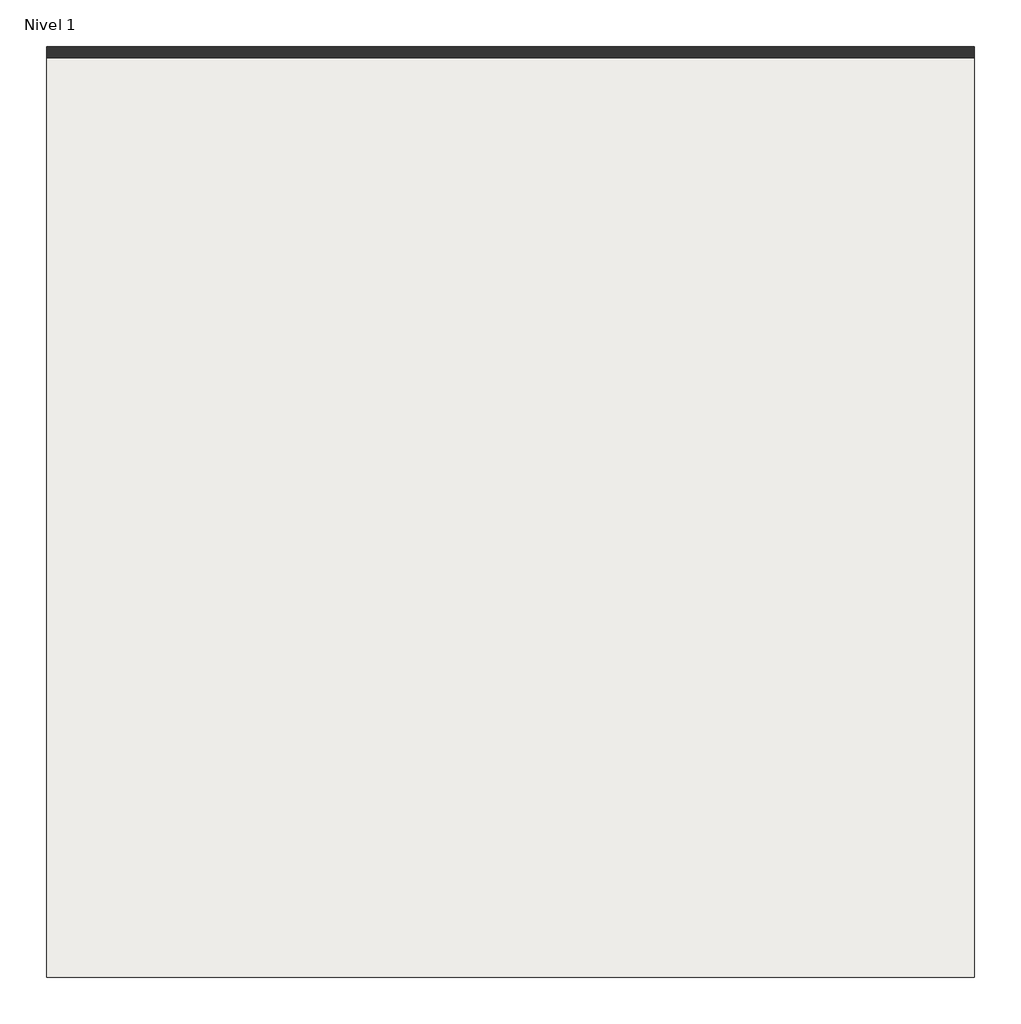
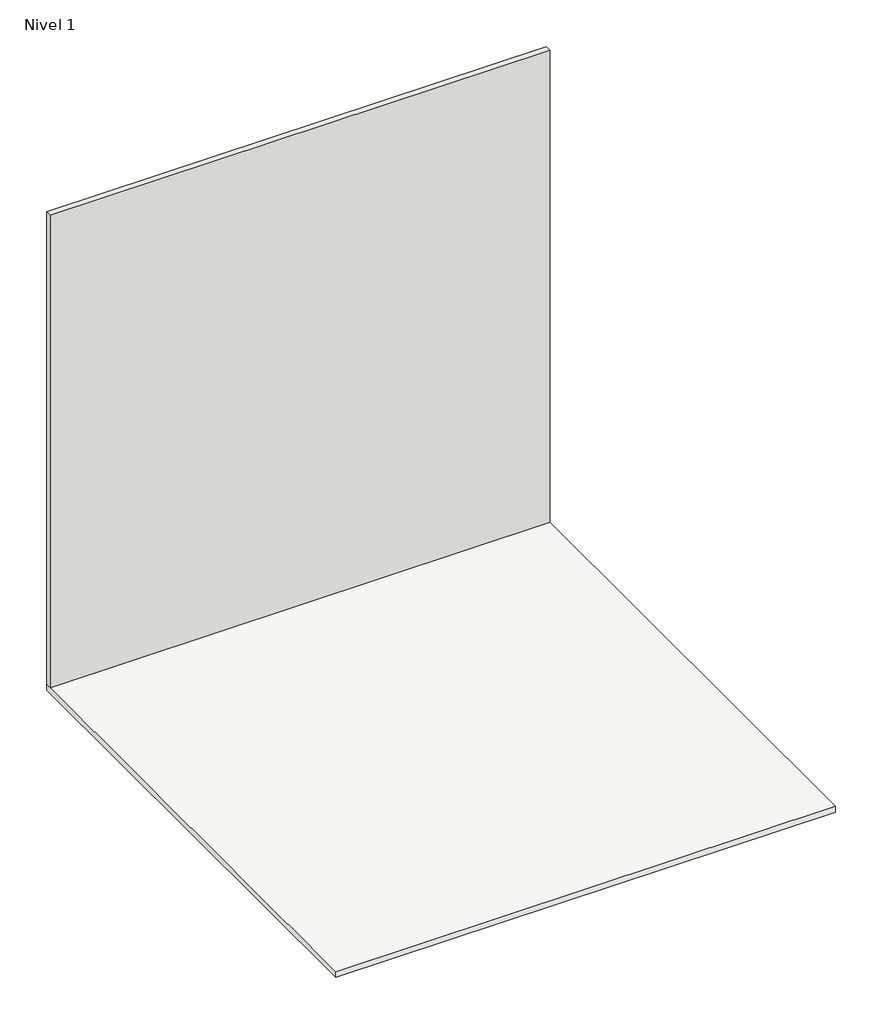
# One storey: 1 slab, 1 wall.
"""IFC4 building model written with IfcOpenShell, lengths in millimetres."""

from ifc_helpers import new_model, si_unit, frame, origin, origin_with_axes, place, context, project, spatial, polyline, outline, extrude, element, save

model = new_model("IFC4")

# Units and contexts
model_context = context("Model", 3, world=origin())
ifc_project = project(units=[si_unit("LENGTHUNIT", "METRE", prefix="MILLI")], contexts=[model_context])

# Site, building, storey
site = spatial("IfcSite", under=ifc_project)
building = spatial("IfcBuilding", under=site)
storey = spatial("IfcBuildingStorey", under=building, Name="Nivel 1", Elevation=0.0)

# Slab
placement = place(None, origin())
element("IfcSlab", 1, ObjectType="Pieza 490 G6_Patrón 1/3_Pietro_Grey_Anti-Slip", at=placement, inside=storey, context=model_context, shape_type="SweptSolid", body=[
    extrude(outline(polyline([(8650.0038801, 4881.6285948), (8650.0038801, 3395.1285948), (7168.0038801, 3395.1285948), (7168.0038801, 4881.6285948), (8650.0038801, 4881.6285948)])), frame((0.0, 0.0, -18.0), z_axis=(0.0, 0.0, 1.0), x_axis=(1.0, 0.0, 0.0)), (0.0, 0.0, 1.0), 18.0),
])

# Wall
element("IfcWall", 2, ObjectType="Pieza 490 G6_Patrón 1/3_Pietro_Grey_Anti-Slip", at=placement, inside=storey, context=model_context, shape_type="SweptSolid", body=[
    extrude(outline(polyline([(8650.0038801, 4863.6285948), (7168.0038801, 4863.6285948), (7168.0038801, 4881.6285948), (8650.0038801, 4881.6285948), (8650.0038801, 4863.6285948)])), origin_with_axes(), (0.0, 0.0, 1.0), 1482.0),
])

save(model, "model.ifc")
